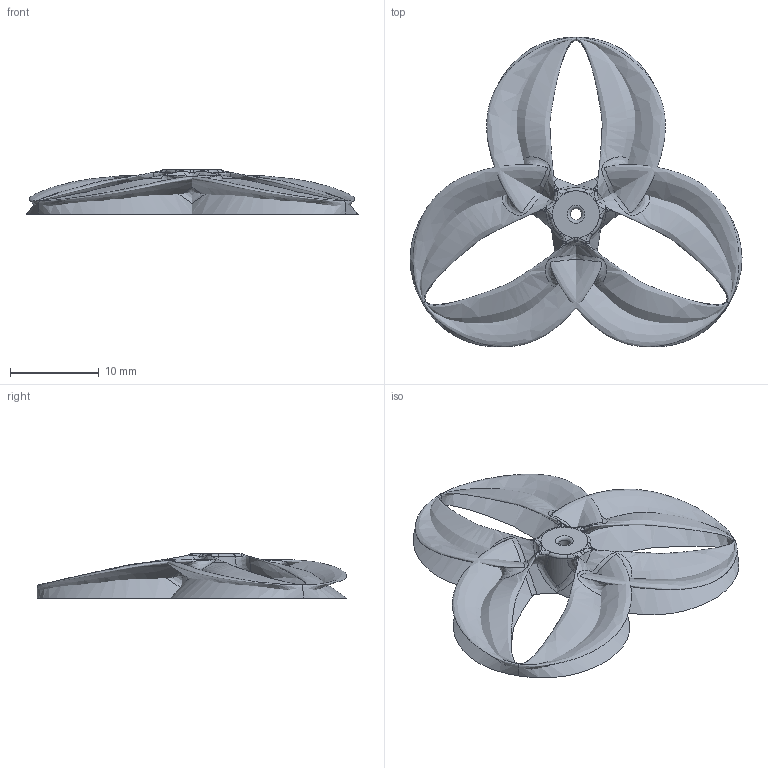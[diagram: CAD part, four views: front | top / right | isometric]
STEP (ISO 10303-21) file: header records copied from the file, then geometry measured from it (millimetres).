
FILE_DESCRIPTION(/* description */ (''),/* implementation_level */ '2;1');
FILE_NAME(/* name */ 'V3 Tri-Loop 40mm v2.step',/* time_stamp */ '2023-02-19T17:21:43+07:00',/* author */ (''),/* organization */ (''),/* preprocessor_version */ 'ST-DEVELOPER v19.2',/* originating_system */ 'Autodesk Translation Framework v11.17.0.187',/* authorisation */ '');
FILE_SCHEMA (('AUTOMOTIVE_DESIGN { 1 0 10303 214 3 1 1 }'));
Length unit declared in the file: millimetre
Products named in the file (1): V3 Tri-Loop 40mm
Bounding box: 37.45 x 34.95 x 5 mm (x, y, z)
Volume: 1118.4 mm3; surface area: 3448 mm2
Topology: 2 solids, 2 shells, 82 faces, 270 edges, 164 vertices
Faces by surface type: bspline 48, plane 16, cylinder 8, torus 8, cone 2
Full cylindrical faces by diameter (mm): 1.3 x2
Entity records: 10466 total; most frequent: CARTESIAN_POINT 8671, ORIENTED_EDGE 508, EDGE_CURVE 254, DIRECTION 194, VERTEX_POINT 164, B_SPLINE_CURVE_WITH_KNOTS 124, AXIS2_PLACEMENT_3D 89, EDGE_LOOP 86
